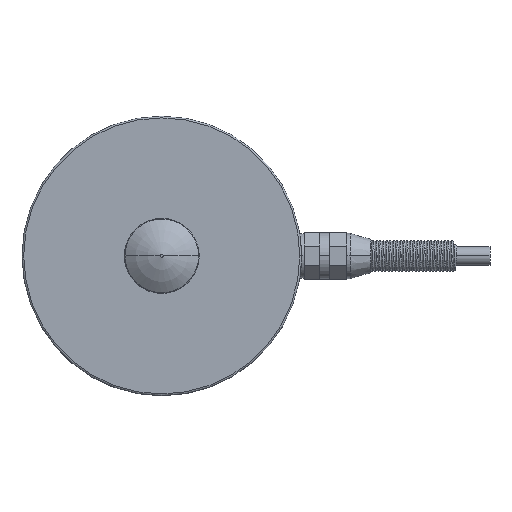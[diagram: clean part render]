
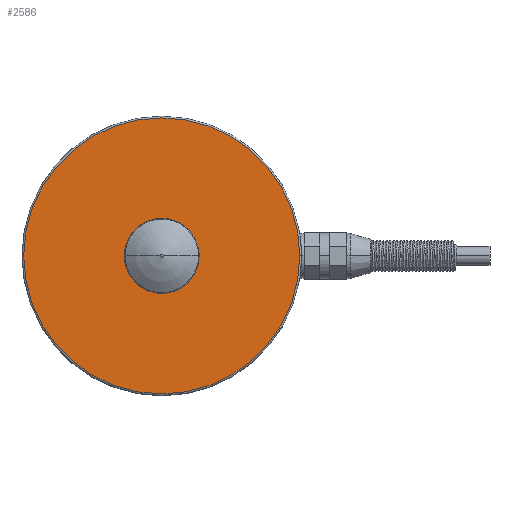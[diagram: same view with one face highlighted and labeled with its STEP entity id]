
A CAD part, top view. The second image highlights one B-rep face of the part: STEP entity #2586.
In plain terms, the highlighted planar face has unit normal (0, 0, 1).
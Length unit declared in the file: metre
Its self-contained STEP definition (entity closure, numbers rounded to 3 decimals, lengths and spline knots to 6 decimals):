
#683 = EDGE_LOOP ( 'NONE', ( #16944, #16941 ) ) ;
#1497 = FACE_BOUND ( 'NONE', #16956, .T. ) ;
#1572 = CIRCLE ( 'NONE', #19139, 0.01 ) ;
#1655 = CIRCLE ( 'NONE', #14352, 0.0405 ) ;
#1669 = CIRCLE ( 'NONE', #14361, 0.01 ) ;
#2586 = ADVANCED_FACE ( 'NONE', ( #5712, #1497 ), #19601, .T. ) ;
#5712 = FACE_OUTER_BOUND ( 'NONE', #683, .T. ) ;
#8938 = CARTESIAN_POINT ( 'NONE',  ( -0.01, 0., 0.032 ) ) ;
#9344 = CARTESIAN_POINT ( 'NONE',  ( 0., 0., 0.032 ) ) ;
#9345 = DIRECTION ( 'NONE',  ( 0., 0., 1. ) ) ;
#9346 = DIRECTION ( 'NONE',  ( 1., 0., 0. ) ) ;
#11795 = VERTEX_POINT ( 'NONE', #8938 ) ;
#12536 = EDGE_CURVE ( 'NONE', #12733, #16348, #16255, .T. ) ;
#12633 = EDGE_CURVE ( 'NONE', #12734, #11795, #1572, .T. ) ;
#12733 = VERTEX_POINT ( 'NONE', #18791 ) ;
#12734 = VERTEX_POINT ( 'NONE', #18801 ) ;
#14352 = AXIS2_PLACEMENT_3D ( 'NONE', #19009, #19010, #19011 ) ;
#14361 = AXIS2_PLACEMENT_3D ( 'NONE', #19067, #19068, #19069 ) ;
#16255 = CIRCLE ( 'NONE', #19168, 0.0405 ) ;
#16348 = VERTEX_POINT ( 'NONE', #18831 ) ;
#16920 = ORIENTED_EDGE ( 'NONE', *, *, #17712, .F. ) ;
#16941 = ORIENTED_EDGE ( 'NONE', *, *, #17706, .T. ) ;
#16944 = ORIENTED_EDGE ( 'NONE', *, *, #12536, .T. ) ;
#16947 = ORIENTED_EDGE ( 'NONE', *, *, #12633, .F. ) ;
#16956 = EDGE_LOOP ( 'NONE', ( #16947, #16920 ) ) ;
#17706 = EDGE_CURVE ( 'NONE', #16348, #12733, #1655, .T. ) ;
#17712 = EDGE_CURVE ( 'NONE', #11795, #12734, #1669, .T. ) ;
#18766 = CARTESIAN_POINT ( 'NONE',  ( 0., 0., 0.032 ) ) ;
#18768 = DIRECTION ( 'NONE',  ( 0., 0., 1. ) ) ;
#18770 = DIRECTION ( 'NONE',  ( 1., 0., 0. ) ) ;
#18791 = CARTESIAN_POINT ( 'NONE',  ( 0.0405, 0., 0.032 ) ) ;
#18801 = CARTESIAN_POINT ( 'NONE',  ( 0.01, 0., 0.032 ) ) ;
#18831 = CARTESIAN_POINT ( 'NONE',  ( -0.0405, 0., 0.032 ) ) ;
#19009 = CARTESIAN_POINT ( 'NONE',  ( 0., 0., 0.032 ) ) ;
#19010 = DIRECTION ( 'NONE',  ( 0., 0., 1. ) ) ;
#19011 = DIRECTION ( 'NONE',  ( 1., 0., 0. ) ) ;
#19067 = CARTESIAN_POINT ( 'NONE',  ( 0., 0., 0.032 ) ) ;
#19068 = DIRECTION ( 'NONE',  ( 0., 0., 1. ) ) ;
#19069 = DIRECTION ( 'NONE',  ( 1., 0., 0. ) ) ;
#19139 = AXIS2_PLACEMENT_3D ( 'NONE', #18766, #18768, #18770 ) ;
#19168 = AXIS2_PLACEMENT_3D ( 'NONE', #9344, #9345, #9346 ) ;
#19209 = AXIS2_PLACEMENT_3D ( 'NONE', #19594, #19593, #19592 ) ;
#19592 = DIRECTION ( 'NONE',  ( 1., 0., 0. ) ) ;
#19593 = DIRECTION ( 'NONE',  ( 0., 0., 1. ) ) ;
#19594 = CARTESIAN_POINT ( 'NONE',  ( 0., 0., 0.032 ) ) ;
#19601 = PLANE ( 'NONE',  #19209 ) ;
